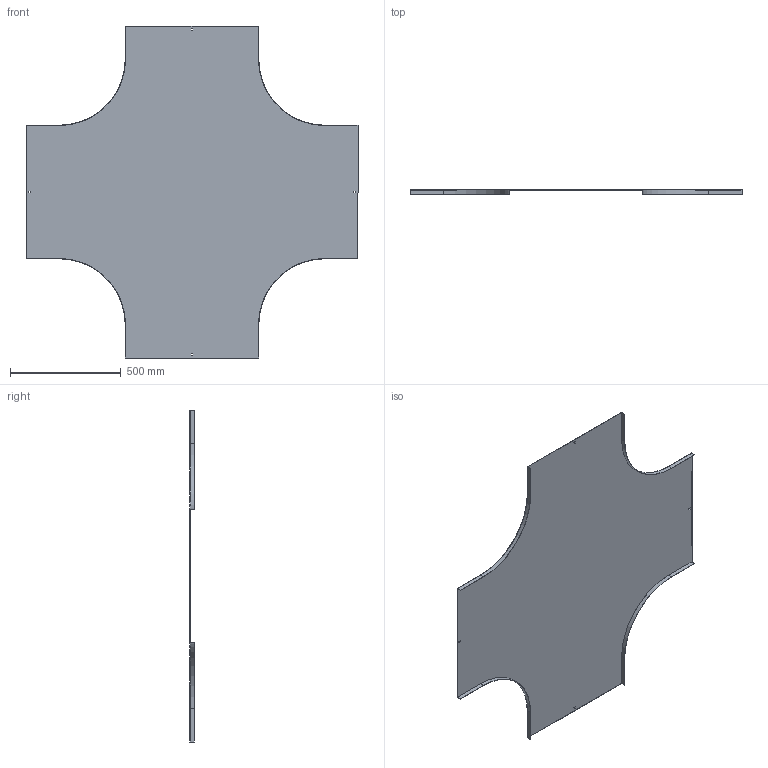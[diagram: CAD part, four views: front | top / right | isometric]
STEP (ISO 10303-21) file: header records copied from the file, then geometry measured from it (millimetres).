
FILE_DESCRIPTION (( 'STEP AP214' ), '1' );
FILE_NAME ('A2_17N3R600.step', '2025-02-21T12:08:20', ( '' ), ( '' ), 'SwSTEP 2.0', 'SolidWorks 2023', '' );
FILE_SCHEMA (( 'AUTOMOTIVE_DESIGN' ));
Length unit declared in the file: millimetre
Products named in the file (1): A2_17N3R600
Bounding box: 1500 x 20 x 1500 mm (x, y, z)
Volume: 2367941.3 mm3; surface area: 3165894.3 mm2
Topology: 1 solids, 1 shells, 50 faces, 144 edges, 96 vertices
Faces by surface type: plane 42, cylinder 8
Entity records: 1663 total; most frequent: CARTESIAN_POINT 291, ORIENTED_EDGE 288, DIRECTION 262, EDGE_CURVE 144, VECTOR 128, LINE 128, VERTEX_POINT 96, AXIS2_PLACEMENT_3D 67
